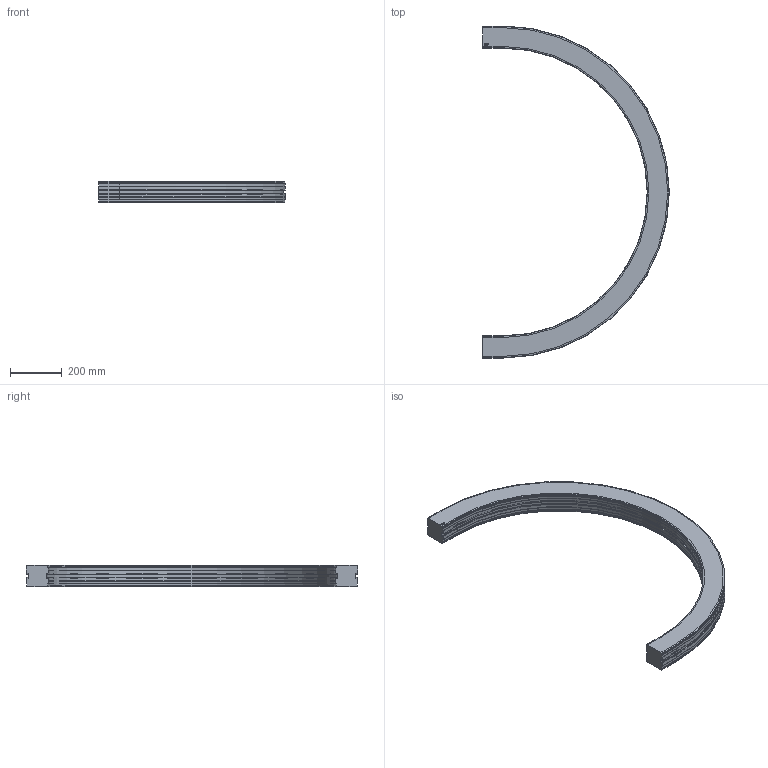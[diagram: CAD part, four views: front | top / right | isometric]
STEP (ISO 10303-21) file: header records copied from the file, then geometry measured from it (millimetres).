
FILE_DESCRIPTION((''),'2;1');
FILE_NAME('C:\Vault Klient\Projekt\Koncept konstruktion\Serie 830 Balk\830-5370.stp','2009-11-27T10:28:04',('Mathias'),(''),'Autodesk Inventor 2010','Autodesk Inventor 2010','');
FILE_SCHEMA(('AUTOMOTIVE_DESIGN { 1 0 10303 214 1 1 1 1 }'));
Length unit declared in the file: millimetre
Products named in the file (1): 830-5370
Bounding box: 723 x 1286 x 81.5 mm (x, y, z)
Volume: 13592582.5 mm3; surface area: 848860 mm2
Topology: 1 solids, 1 shells, 169 faces, 446 edges, 284 vertices
Faces by surface type: plane 109, cylinder 30, bspline 14, cone 12, torus 4
Entity records: 5295 total; most frequent: CARTESIAN_POINT 1094, ORIENTED_EDGE 892, DIRECTION 802, EDGE_CURVE 446, VECTOR 346, LINE 346, VERTEX_POINT 284, AXIS2_PLACEMENT_3D 228
